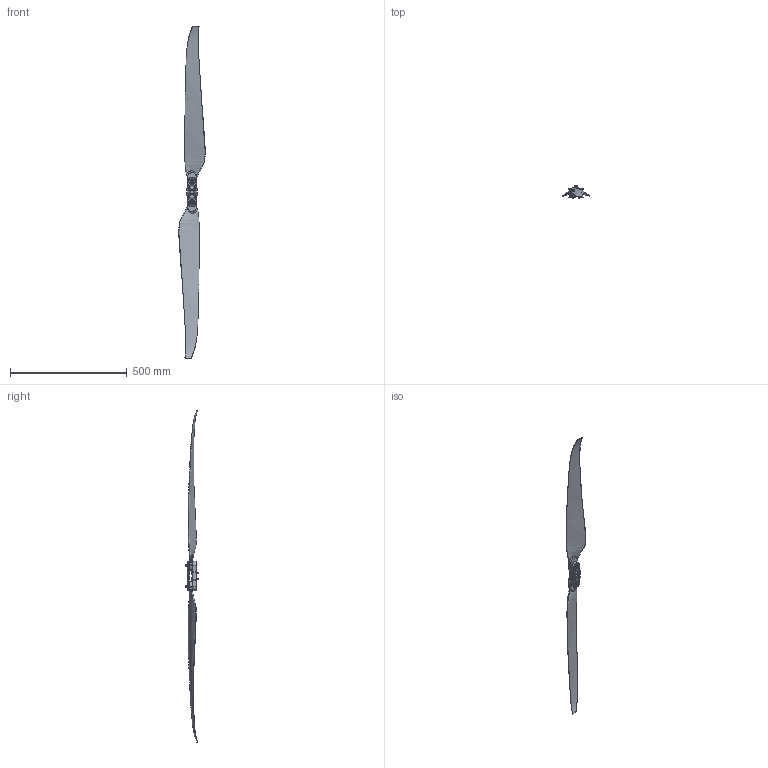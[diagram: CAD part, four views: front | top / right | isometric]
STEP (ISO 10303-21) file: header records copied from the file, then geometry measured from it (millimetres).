
FILE_DESCRIPTION (( 'STEP AP203' ), '1' );
FILE_NAME ('56寸桨叶桨夹套装（外发客户）-20230616.STEP', '2023-06-16T08:44:46', ( '' ), ( '' ), 'SwSTEP 2.0', 'SolidWorks 2021', '' );
FILE_SCHEMA (( 'CONFIG_CONTROL_DESIGN' ));
Length unit declared in the file: millimetre
Products named in the file (8): 104150035A0-销钉-D16×D14×28.5; 124400059A0-垫圈-D32XD14.2Xt2; 111350148A0-桨夹盖-D14×90-配5620桨; 56ｴ鄂ｰﾒｶｽｰｼﾐﾌﾗﾗｰ｣ｨﾍ箙｢ｿﾍｻｧ｣ｩ-20230616; 111350149A0-桨夹座-D14×90-配5620桨; 104110107A1-螺丝-HM6×16-本色二组合; hexagon socket head cap screws gb_GB_FASTENER_SCREWS_HSHCS M5X16-N; HW5620蔑珔_尨砩耀倰-20230616
Assembly tree (16 placements, depth 2):
  56ｴ鄂ｰﾒｶｽｰｼﾐﾌﾗﾗｰ｣ｨﾍ箙｢ｿﾍｻｧ｣ｩ-20230616
    111350149A0-桨夹座-D14×90-配5620桨
    124400059A0-垫圈-D32XD14.2Xt2  x4
    111350148A0-桨夹盖-D14×90-配5620桨
    104150035A0-销钉-D16×D14×28.5  x2
    104110107A1-螺丝-HM6×16-本色二组合  x2
    hexagon socket head cap screws gb_GB_FASTENER_SCREWS_HSHCS M5X16-N  x4
    HW5620蔑珔_尨砩耀倰-20230616  x2
Bounding box: 113.33 x 51.7 x 1422.45 mm (x, y, z)
Volume: 661902 mm3; surface area: 243446.3 mm2
Topology: 18 solids, 18 shells, 1667 faces, 4606 edges, 3009 vertices
Faces by surface type: plane 1070, cylinder 454, cone 71, torus 38, bspline 34
Entity records: 47635 total; most frequent: CARTESIAN_POINT 21766, ORIENTED_EDGE 5282, DIRECTION 5244, EDGE_CURVE 2641, AXIS2_PLACEMENT_3D 1905, VERTEX_POINT 1727, LINE 1434, VECTOR 1434
